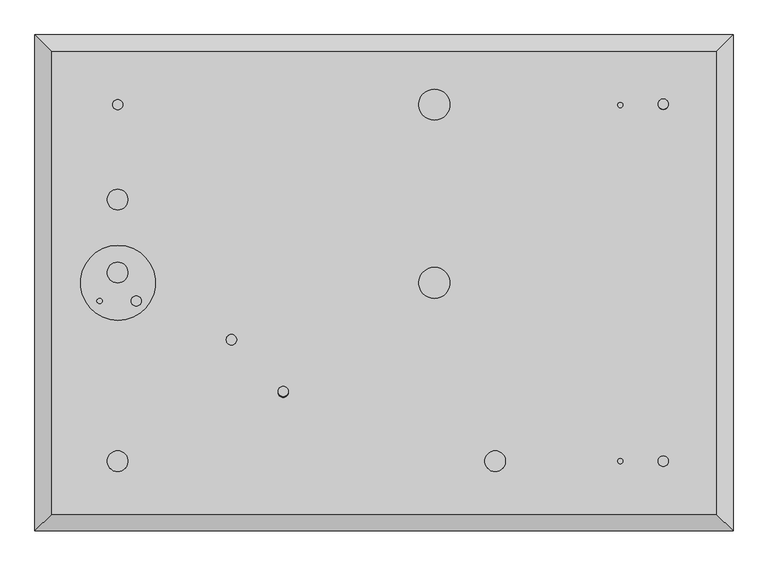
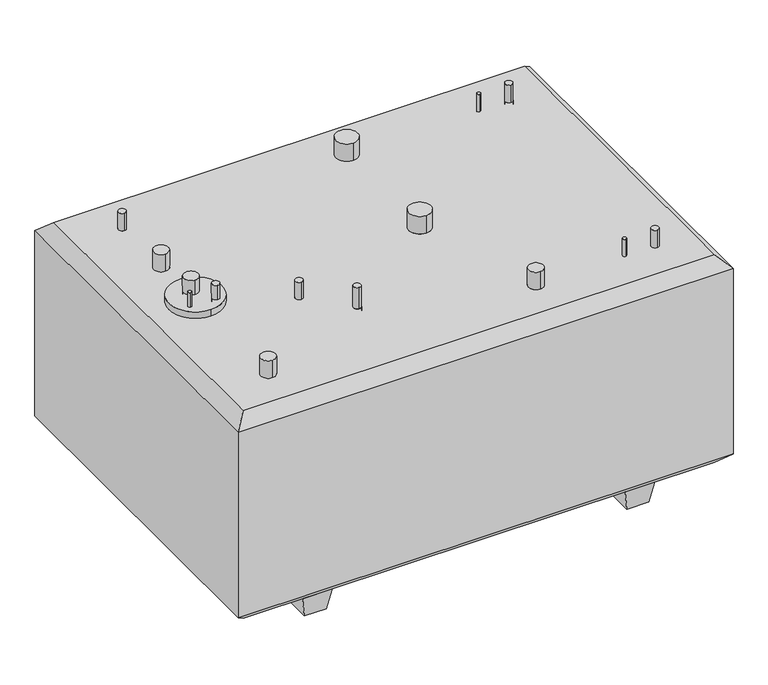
"""IFC4 building model written with IfcOpenShell, lengths in millimetres: proxy geometry, Convault Tank Family 88153084 : Convault Tank Family 88153084."""

from ifc_helpers import new_model, si_unit, point, frame, frame_2d, origin, place, context, project, spatial, polyline, circle_curve, trimmed, segment, composite_curve, outline, extrude, faceted_brep, source, transform, mapped, element, save
from ifc_brep_helpers import plane_surface, cylinder_surface, revolved_surface, advanced_brep


def generic_models_5e624025(model_context):
    return source(origin(), model_context, "Body", "SolidModel", [
        extrude(outline(composite_curve([segment(trimmed(circle_curve(frame_2d((-1306.5125, 0.0)), 184.15), [point((-1306.5125, 184.15))], [point((-1306.5125, -184.15))], False, "CARTESIAN"), True, "CONTINUOUS"), segment(trimmed(circle_curve(frame_2d((-1306.5125, 0.0)), 184.15), [point((-1306.5125, -184.15))], [point((-1306.5125, 184.15))], False, "CARTESIAN"), True, "CONTINUOUS")], self_intersect=False)), frame((0.0, 0.0, 1498.6), z_axis=(0.0, 0.0, 1.0), x_axis=(1.0, 0.0, 0.0)), (0.0, 0.0, 1.0), 224.7090569),
        advanced_brep(
        [(-495.3, -558.8, 1828.8), (-495.3, -508.0, 1828.8), (-520.6170956, -535.450529, 1498.6), (-495.3, -508.0, 1498.6), (-469.9829044, -535.450529, 1498.6), (-495.3, -512.1010581, 1498.6), (-495.3, -558.8, 1676.4), (-469.9829044, -535.450529, 1676.4), (-520.6170956, -535.450529, 1676.4), (-495.3, -512.1010581, 1676.4)],
        [
            (0, 1, circle_curve(frame((-495.3, -533.4, 1828.8), z_axis=(0.0, 0.0, 1.0), x_axis=(0.0, 1.0, 0.0)), 25.4)),
            (1, 0, circle_curve(frame((-495.3, -533.4, 1828.8), z_axis=(0.0, 0.0, 1.0), x_axis=(0.0, 1.0, 0.0)), 25.4)),
            (2, 3, circle_curve(frame((-495.3, -533.4, 1498.6), z_axis=(0.0, 0.0, -1.0), x_axis=(0.0, 1.0, 0.0)), 25.4)),
            (3, 4, circle_curve(frame((-495.3, -533.4, 1498.6), z_axis=(0.0, 0.0, -1.0), x_axis=(0.0, 1.0, 0.0)), 25.4)),
            (4, 5, circle_curve(frame((-495.3, -537.5010581, 1498.6), z_axis=(0.0, 0.0, 1.0), x_axis=(0.0, -1.0, 0.0)), 25.4)),
            (5, 2, circle_curve(frame((-495.3, -537.5010581, 1498.6), z_axis=(0.0, 0.0, 1.0), x_axis=(0.0, -1.0, 0.0)), 25.4)),
            (0, 6),
            (6, 7, circle_curve(frame((-495.3, -533.4, 1676.4), z_axis=(0.0, 0.0, 1.0), x_axis=(0.0, 1.0, 0.0)), 25.4)),
            (7, 4),
            (3, 1),
            (2, 8),
            (8, 6, circle_curve(frame((-495.3, -533.4, 1676.4), z_axis=(0.0, 0.0, 1.0), x_axis=(0.0, 1.0, 0.0)), 25.4)),
            (9, 7, circle_curve(frame((-495.3, -537.5010581, 1676.4), z_axis=(0.0, 0.0, -1.0), x_axis=(0.0, -1.0, 0.0)), 25.4)),
            (8, 9, circle_curve(frame((-495.3, -537.5010581, 1676.4), z_axis=(0.0, 0.0, -1.0), x_axis=(0.0, -1.0, 0.0)), 25.4)),
            (5, 9),
        ],
        [
            plane_surface(frame((-495.3, -508.0, 1828.8), z_axis=(0.0, 0.0, 1.0), x_axis=(-1.0, 0.0, 0.0))),
            plane_surface(frame((-495.3, -508.0, 1498.6), z_axis=(0.0, 0.0, -1.0), x_axis=(1.0, 0.0, 0.0))),
            cylinder_surface(frame((-495.3, -533.4, 1498.6), z_axis=(0.0, 0.0, 1.0), x_axis=(0.0, 1.0, 0.0)), 25.4),
            plane_surface(frame((-1308.1, 850.9, 1676.4), z_axis=(0.0, 0.0, -1.0), x_axis=(1.0, 0.0, 0.0))),
            revolved_surface(polyline([(-495.3, -562.9010581, 1676.4), (-495.3, -562.9010581, 1498.6)]), (-495.3, -537.5010581, 1498.6), (0.0, 0.0, 1.0)),
        ],
        [
            (0, [[1, 2]]),
            (1, [[3, 4, 5, 6]]),
            (2, [[-1, 7, 8, 9, -4, 10]]),
            (2, [[-2, -10, -3, 11, 12, -7]]),
            (3, [[13, -8, -12, 14]]),
            (4, [[15, -14, -11, -6]]),
            (4, [[-15, -5, -9, -13]]),
        ],
    ),
        advanced_brep(
        [(-1308.1, 901.7, 1803.4), (-1308.1, 850.9, 1803.4), (-1308.1, 901.7, 1676.4), (-1308.1, 850.9, 1676.4)],
        [
            (0, 1, circle_curve(frame((-1308.1, 876.3, 1803.4), z_axis=(0.0, 0.0, 1.0), x_axis=(0.0, -1.0, 0.0)), 25.4)),
            (1, 0, circle_curve(frame((-1308.1, 876.3, 1803.4), z_axis=(0.0, 0.0, 1.0), x_axis=(0.0, -1.0, 0.0)), 25.4)),
            (0, 2),
            (2, 3, circle_curve(frame((-1308.1, 876.3, 1676.4), z_axis=(0.0, 0.0, 1.0), x_axis=(0.0, -1.0, 0.0)), 25.4)),
            (3, 1),
            (3, 2, circle_curve(frame((-1308.1, 876.3, 1676.4), z_axis=(0.0, 0.0, 1.0), x_axis=(0.0, -1.0, 0.0)), 25.4)),
        ],
        [
            plane_surface(frame((-1308.1, 850.9, 1803.4), z_axis=(0.0, 0.0, 1.0), x_axis=(1.0, 0.0, 0.0))),
            cylinder_surface(frame((-1308.1, 876.3, 1498.6), z_axis=(0.0, 0.0, 1.0), x_axis=(0.0, -1.0, 0.0)), 25.4),
            plane_surface(frame((-1308.1, 850.9, 1676.4), z_axis=(0.0, 0.0, -1.0), x_axis=(1.0, 0.0, 0.0))),
        ],
        [
            (0, [[1, 2]]),
            (1, [[-1, 3, 4, 5]]),
            (1, [[-2, -5, 6, -3]]),
            (2, [[-4, -6]]),
        ],
    ),
        advanced_brep(
        [(-1308.1, 460.375, 1803.4), (-1308.1, 358.775, 1803.4), (-1308.1, 460.375, 1676.4), (-1308.1, 358.775, 1676.4)],
        [
            (0, 1, circle_curve(frame((-1308.1, 409.575, 1803.4), z_axis=(0.0, 0.0, 1.0), x_axis=(0.0, -1.0, 0.0)), 50.8)),
            (1, 0, circle_curve(frame((-1308.1, 409.575, 1803.4), z_axis=(0.0, 0.0, 1.0), x_axis=(0.0, -1.0, 0.0)), 50.8)),
            (0, 2),
            (2, 3, circle_curve(frame((-1308.1, 409.575, 1676.4), z_axis=(0.0, 0.0, 1.0), x_axis=(0.0, -1.0, 0.0)), 50.8)),
            (3, 1),
            (3, 2, circle_curve(frame((-1308.1, 409.575, 1676.4), z_axis=(0.0, 0.0, 1.0), x_axis=(0.0, -1.0, 0.0)), 50.8)),
        ],
        [
            plane_surface(frame((-1308.1, 850.9, 1803.4), z_axis=(0.0, 0.0, 1.0), x_axis=(1.0, 0.0, 0.0))),
            cylinder_surface(frame((-1308.1, 409.575, 1498.6), z_axis=(0.0, 0.0, 1.0), x_axis=(0.0, -1.0, 0.0)), 50.8),
            plane_surface(frame((-1308.1, 850.9, 1676.4), z_axis=(0.0, 0.0, -1.0), x_axis=(1.0, 0.0, 0.0))),
        ],
        [
            (0, [[1, 2]]),
            (1, [[-1, 3, 4, 5]]),
            (1, [[-2, -5, 6, -3]]),
            (2, [[-4, -6]]),
        ],
    ),
        advanced_brep(
        [(-1308.1, -825.5, 1803.4), (-1308.1, -927.1, 1803.4), (-1308.1, -825.5, 1676.4), (-1308.1, -927.1, 1676.4)],
        [
            (0, 1, circle_curve(frame((-1308.1, -876.3, 1803.4), z_axis=(0.0, 0.0, 1.0), x_axis=(0.0, -1.0, 0.0)), 50.8)),
            (1, 0, circle_curve(frame((-1308.1, -876.3, 1803.4), z_axis=(0.0, 0.0, 1.0), x_axis=(0.0, -1.0, 0.0)), 50.8)),
            (0, 2),
            (2, 3, circle_curve(frame((-1308.1, -876.3, 1676.4), z_axis=(0.0, 0.0, 1.0), x_axis=(0.0, -1.0, 0.0)), 50.8)),
            (3, 1),
            (3, 2, circle_curve(frame((-1308.1, -876.3, 1676.4), z_axis=(0.0, 0.0, 1.0), x_axis=(0.0, -1.0, 0.0)), 50.8)),
        ],
        [
            plane_surface(frame((-1308.1, 850.9, 1803.4), z_axis=(0.0, 0.0, 1.0), x_axis=(1.0, 0.0, 0.0))),
            cylinder_surface(frame((-1308.1, -876.3, 1498.6), z_axis=(0.0, 0.0, 1.0), x_axis=(0.0, -1.0, 0.0)), 50.8),
            plane_surface(frame((-1308.1, 850.9, 1676.4), z_axis=(0.0, 0.0, -1.0), x_axis=(1.0, 0.0, 0.0))),
        ],
        [
            (0, [[1, 2]]),
            (1, [[-1, 3, 4, 5]]),
            (1, [[-2, -5, 6, -3]]),
            (2, [[-4, -6]]),
        ],
    ),
        advanced_brep(
        [(-749.3, -254.0, 1803.4), (-749.3, -304.8, 1803.4), (-749.3, -254.0, 1676.4), (-749.3, -304.8, 1676.4)],
        [
            (0, 1, circle_curve(frame((-749.3, -279.4, 1803.4), z_axis=(0.0, 0.0, 1.0), x_axis=(0.0, -1.0, 0.0)), 25.4)),
            (1, 0, circle_curve(frame((-749.3, -279.4, 1803.4), z_axis=(0.0, 0.0, 1.0), x_axis=(0.0, -1.0, 0.0)), 25.4)),
            (0, 2),
            (2, 3, circle_curve(frame((-749.3, -279.4, 1676.4), z_axis=(0.0, 0.0, 1.0), x_axis=(0.0, -1.0, 0.0)), 25.4)),
            (3, 1),
            (3, 2, circle_curve(frame((-749.3, -279.4, 1676.4), z_axis=(0.0, 0.0, 1.0), x_axis=(0.0, -1.0, 0.0)), 25.4)),
        ],
        [
            plane_surface(frame((-1308.1, 850.9, 1803.4), z_axis=(0.0, 0.0, 1.0), x_axis=(1.0, 0.0, 0.0))),
            cylinder_surface(frame((-749.3, -279.4, 1498.6), z_axis=(0.0, 0.0, 1.0), x_axis=(0.0, -1.0, 0.0)), 25.4),
            plane_surface(frame((-1308.1, 850.9, 1676.4), z_axis=(0.0, 0.0, -1.0), x_axis=(1.0, 0.0, 0.0))),
        ],
        [
            (0, [[1, 2]]),
            (1, [[-1, 3, 4, 5]]),
            (1, [[-2, -5, 6, -3]]),
            (2, [[-4, -6]]),
        ],
    ),
        advanced_brep(
        [(247.65, 76.2, 1803.4), (247.65, -76.2, 1803.4), (247.65, 76.2, 1676.4), (247.65, -76.2, 1676.4)],
        [
            (0, 1, circle_curve(frame((247.65, 0.0, 1803.4), z_axis=(0.0, 0.0, 1.0), x_axis=(0.0, -1.0, 0.0)), 76.2)),
            (1, 0, circle_curve(frame((247.65, 0.0, 1803.4), z_axis=(0.0, 0.0, 1.0), x_axis=(0.0, -1.0, 0.0)), 76.2)),
            (0, 2),
            (2, 3, circle_curve(frame((247.65, 0.0, 1676.4), z_axis=(0.0, 0.0, 1.0), x_axis=(0.0, -1.0, 0.0)), 76.2)),
            (3, 1),
            (3, 2, circle_curve(frame((247.65, 0.0, 1676.4), z_axis=(0.0, 0.0, 1.0), x_axis=(0.0, -1.0, 0.0)), 76.2)),
        ],
        [
            plane_surface(frame((-1308.1, 850.9, 1803.4), z_axis=(0.0, 0.0, 1.0), x_axis=(1.0, 0.0, 0.0))),
            cylinder_surface(frame((247.65, 0.0, 1498.6), z_axis=(0.0, 0.0, 1.0), x_axis=(0.0, -1.0, 0.0)), 76.2),
            plane_surface(frame((-1308.1, 850.9, 1676.4), z_axis=(0.0, 0.0, -1.0), x_axis=(1.0, 0.0, 0.0))),
        ],
        [
            (0, [[1, 2]]),
            (1, [[-1, 3, 4, 5]]),
            (1, [[-2, -5, 6, -3]]),
            (2, [[-4, -6]]),
        ],
    ),
        advanced_brep(
        [(247.65, 952.5, 1803.4), (247.65, 800.1, 1803.4), (247.65, 952.5, 1498.6), (247.65, 800.1, 1498.6)],
        [
            (0, 1, circle_curve(frame((247.65, 876.3, 1803.4), z_axis=(0.0, 0.0, 1.0), x_axis=(0.0, -1.0, 0.0)), 76.2)),
            (1, 0, circle_curve(frame((247.65, 876.3, 1803.4), z_axis=(0.0, 0.0, 1.0), x_axis=(0.0, -1.0, 0.0)), 76.2)),
            (2, 3, circle_curve(frame((247.65, 876.3, 1498.6), z_axis=(0.0, 0.0, -1.0), x_axis=(0.0, -1.0, 0.0)), 76.2)),
            (3, 2, circle_curve(frame((247.65, 876.3, 1498.6), z_axis=(0.0, 0.0, -1.0), x_axis=(0.0, -1.0, 0.0)), 76.2)),
            (0, 2),
            (3, 1),
        ],
        [
            plane_surface(frame((-1308.1, 850.9, 1803.4), z_axis=(0.0, 0.0, 1.0), x_axis=(1.0, 0.0, 0.0))),
            plane_surface(frame((-1308.1, 850.9, 1498.6), z_axis=(0.0, 0.0, -1.0), x_axis=(-1.0, 0.0, 0.0))),
            cylinder_surface(frame((247.65, 876.3, 1498.6), z_axis=(0.0, 0.0, 1.0), x_axis=(0.0, -1.0, 0.0)), 76.2),
        ],
        [
            (0, [[1, 2]]),
            (1, [[3, 4]]),
            (2, [[-1, 5, -4, 6]]),
            (2, [[-2, -6, -3, -5]]),
        ],
    ),
        advanced_brep(
        [(1371.6, -850.9, 1803.4), (1371.6, -901.7, 1803.4), (1371.6, -850.9, 1676.4), (1371.6, -901.7, 1676.4)],
        [
            (0, 1, circle_curve(frame((1371.6, -876.3, 1803.4), z_axis=(0.0, 0.0, 1.0), x_axis=(0.0, -1.0, 0.0)), 25.4)),
            (1, 0, circle_curve(frame((1371.6, -876.3, 1803.4), z_axis=(0.0, 0.0, 1.0), x_axis=(0.0, -1.0, 0.0)), 25.4)),
            (0, 2),
            (2, 3, circle_curve(frame((1371.6, -876.3, 1676.4), z_axis=(0.0, 0.0, 1.0), x_axis=(0.0, -1.0, 0.0)), 25.4)),
            (3, 1),
            (3, 2, circle_curve(frame((1371.6, -876.3, 1676.4), z_axis=(0.0, 0.0, 1.0), x_axis=(0.0, -1.0, 0.0)), 25.4)),
        ],
        [
            plane_surface(frame((-1308.1, 850.9, 1803.4), z_axis=(0.0, 0.0, 1.0), x_axis=(1.0, 0.0, 0.0))),
            cylinder_surface(frame((1371.6, -876.3, 1498.6), z_axis=(0.0, 0.0, 1.0), x_axis=(0.0, -1.0, 0.0)), 25.4),
            plane_surface(frame((-1308.1, 850.9, 1676.4), z_axis=(0.0, 0.0, -1.0), x_axis=(1.0, 0.0, 0.0))),
        ],
        [
            (0, [[1, 2]]),
            (1, [[-1, 3, 4, 5]]),
            (1, [[-2, -5, 6, -3]]),
            (2, [[-4, -6]]),
        ],
    ),
        advanced_brep(
        [(546.1, -825.5, 1803.4), (546.1, -927.1, 1803.4), (546.1, -825.5, 1676.4), (546.1, -927.1, 1676.4)],
        [
            (0, 1, circle_curve(frame((546.1, -876.3, 1803.4), z_axis=(0.0, 0.0, 1.0), x_axis=(0.0, -1.0, 0.0)), 50.8)),
            (1, 0, circle_curve(frame((546.1, -876.3, 1803.4), z_axis=(0.0, 0.0, 1.0), x_axis=(0.0, -1.0, 0.0)), 50.8)),
            (0, 2),
            (2, 3, circle_curve(frame((546.1, -876.3, 1676.4), z_axis=(0.0, 0.0, 1.0), x_axis=(0.0, -1.0, 0.0)), 50.8)),
            (3, 1),
            (3, 2, circle_curve(frame((546.1, -876.3, 1676.4), z_axis=(0.0, 0.0, 1.0), x_axis=(0.0, -1.0, 0.0)), 50.8)),
        ],
        [
            plane_surface(frame((-1308.1, 850.9, 1803.4), z_axis=(0.0, 0.0, 1.0), x_axis=(1.0, 0.0, 0.0))),
            cylinder_surface(frame((546.1, -876.3, 1498.6), z_axis=(0.0, 0.0, 1.0), x_axis=(0.0, -1.0, 0.0)), 50.8),
            plane_surface(frame((-1308.1, 850.9, 1676.4), z_axis=(0.0, 0.0, -1.0), x_axis=(1.0, 0.0, 0.0))),
        ],
        [
            (0, [[1, 2]]),
            (1, [[-1, 3, 4, 5]]),
            (1, [[-2, -5, 6, -3]]),
            (2, [[-4, -6]]),
        ],
    ),
        advanced_brep(
        [(1371.6, 904.3209307, 1803.4), (1371.6, 853.5209307, 1803.4), (1371.6, 904.3209307, 1498.6), (1396.9976351, 878.574328, 1498.6), (1371.6, 903.6277254, 1498.6), (1346.2023649, 878.574328, 1498.6), (1371.6, 903.6277254, 1676.4), (1396.9976351, 878.574328, 1676.4), (1371.6, 853.5209307, 1676.4), (1346.2023649, 878.574328, 1676.4)],
        [
            (0, 1, circle_curve(frame((1371.6, 878.9209307, 1803.4), z_axis=(0.0, 0.0, 1.0), x_axis=(0.0, -1.0, 0.0)), 25.4)),
            (1, 0, circle_curve(frame((1371.6, 878.9209307, 1803.4), z_axis=(0.0, 0.0, 1.0), x_axis=(0.0, -1.0, 0.0)), 25.4)),
            (2, 3, circle_curve(frame((1371.6, 878.9209307, 1498.6), z_axis=(0.0, 0.0, -1.0), x_axis=(0.0, -1.0, 0.0)), 25.4)),
            (3, 4, circle_curve(frame((1371.6, 878.2277254, 1498.6), z_axis=(0.0, 0.0, 1.0), x_axis=(0.0, -1.0, 0.0)), 25.4)),
            (4, 5, circle_curve(frame((1371.6, 878.2277254, 1498.6), z_axis=(0.0, 0.0, 1.0), x_axis=(0.0, -1.0, 0.0)), 25.4)),
            (5, 2, circle_curve(frame((1371.6, 878.9209307, 1498.6), z_axis=(0.0, 0.0, -1.0), x_axis=(0.0, -1.0, 0.0)), 25.4)),
            (6, 7, circle_curve(frame((1371.6, 878.2277254, 1676.4), z_axis=(0.0, 0.0, -1.0), x_axis=(0.0, -1.0, 0.0)), 25.4)),
            (7, 8, circle_curve(frame((1371.6, 878.9209307, 1676.4), z_axis=(0.0, 0.0, -1.0), x_axis=(0.0, -1.0, 0.0)), 25.4)),
            (8, 9, circle_curve(frame((1371.6, 878.9209307, 1676.4), z_axis=(0.0, 0.0, -1.0), x_axis=(0.0, -1.0, 0.0)), 25.4)),
            (9, 6, circle_curve(frame((1371.6, 878.2277254, 1676.4), z_axis=(0.0, 0.0, -1.0), x_axis=(0.0, -1.0, 0.0)), 25.4)),
            (0, 2),
            (5, 9),
            (8, 1),
            (7, 3),
            (4, 6),
        ],
        [
            plane_surface(frame((-1308.1, 850.9, 1803.4), z_axis=(0.0, 0.0, 1.0), x_axis=(1.0, 0.0, 0.0))),
            plane_surface(frame((-1308.1, 850.9, 1498.6), z_axis=(0.0, 0.0, -1.0), x_axis=(-1.0, 0.0, 0.0))),
            plane_surface(frame((-1308.1, 850.9, 1676.4), z_axis=(0.0, 0.0, -1.0), x_axis=(1.0, 0.0, 0.0))),
            cylinder_surface(frame((1371.6, 878.9209307, 1498.6), z_axis=(0.0, 0.0, 1.0), x_axis=(0.0, -1.0, 0.0)), 25.4),
            revolved_surface(polyline([(1371.6, 852.8277254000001, 1676.4), (1371.6, 852.8277254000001, 1498.6)]), (1371.6, 878.2277254, 1498.6), (0.0, 0.0, 1.0)),
        ],
        [
            (0, [[1, 2]]),
            (1, [[3, 4, 5, 6]]),
            (2, [[7, 8, 9, 10]]),
            (3, [[-1, 11, -6, 12, -9, 13]]),
            (3, [[-2, -13, -8, 14, -3, -11]]),
            (4, [[15, -10, -12, -5]]),
            (4, [[-15, -4, -14, -7]]),
        ],
    ),
        advanced_brep(
        [(1160.4625, -863.6, 1803.4), (1160.4625, -889.0, 1803.4), (1160.4625, -863.6, 1498.6), (1160.4625, -889.0, 1498.6)],
        [
            (0, 1, circle_curve(frame((1160.4625, -876.3, 1803.4), z_axis=(0.0, 0.0, 1.0), x_axis=(0.0, -1.0, 0.0)), 12.7)),
            (1, 0, circle_curve(frame((1160.4625, -876.3, 1803.4), z_axis=(0.0, 0.0, 1.0), x_axis=(0.0, -1.0, 0.0)), 12.7)),
            (2, 3, circle_curve(frame((1160.4625, -876.3, 1498.6), z_axis=(0.0, 0.0, -1.0), x_axis=(0.0, -1.0, 0.0)), 12.7)),
            (3, 2, circle_curve(frame((1160.4625, -876.3, 1498.6), z_axis=(0.0, 0.0, -1.0), x_axis=(0.0, -1.0, 0.0)), 12.7)),
            (0, 2),
            (3, 1),
        ],
        [
            plane_surface(frame((-1308.1, 850.9, 1803.4), z_axis=(0.0, 0.0, 1.0), x_axis=(1.0, 0.0, 0.0))),
            plane_surface(frame((-1308.1, 850.9, 1498.6), z_axis=(0.0, 0.0, -1.0), x_axis=(-1.0, 0.0, 0.0))),
            cylinder_surface(frame((1160.4625, -876.3, 1498.6), z_axis=(0.0, 0.0, 1.0), x_axis=(0.0, -1.0, 0.0)), 12.7),
        ],
        [
            (0, [[1, 2]]),
            (1, [[3, 4]]),
            (2, [[-1, 5, -4, 6]]),
            (2, [[-2, -6, -3, -5]]),
        ],
    ),
        advanced_brep(
        [(1160.4625, 886.7646934, 1803.4), (1160.4625, 861.3646934, 1803.4), (1160.4625, 886.7646934, 1498.6), (1160.4625, 861.3646934, 1498.6)],
        [
            (0, 1, circle_curve(frame((1160.4625, 874.0646934, 1803.4), z_axis=(0.0, 0.0, 1.0), x_axis=(0.0, -1.0, 0.0)), 12.7)),
            (1, 0, circle_curve(frame((1160.4625, 874.0646934, 1803.4), z_axis=(0.0, 0.0, 1.0), x_axis=(0.0, -1.0, 0.0)), 12.7)),
            (2, 3, circle_curve(frame((1160.4625, 874.0646934, 1498.6), z_axis=(0.0, 0.0, -1.0), x_axis=(0.0, -1.0, 0.0)), 12.7)),
            (3, 2, circle_curve(frame((1160.4625, 874.0646934, 1498.6), z_axis=(0.0, 0.0, -1.0), x_axis=(0.0, -1.0, 0.0)), 12.7)),
            (0, 2),
            (3, 1),
        ],
        [
            plane_surface(frame((-1308.1, 850.9, 1803.4), z_axis=(0.0, 0.0, 1.0), x_axis=(1.0, 0.0, 0.0))),
            plane_surface(frame((-1308.1, 850.9, 1498.6), z_axis=(0.0, 0.0, -1.0), x_axis=(-1.0, 0.0, 0.0))),
            cylinder_surface(frame((1160.4625, 874.0646934, 1498.6), z_axis=(0.0, 0.0, 1.0), x_axis=(0.0, -1.0, 0.0)), 12.7),
        ],
        [
            (0, [[1, 2]]),
            (1, [[3, 4]]),
            (2, [[-1, 5, -4, 6]]),
            (2, [[-2, -6, -3, -5]]),
        ],
    ),
        extrude(outline(polyline([(1562.1, 1066.8), (1562.1, -1066.8), (-1562.1, -1066.8), (-1562.1, 1066.8), (1562.1, 1066.8)]), holes=[composite_curve([segment(trimmed(circle_curve(frame_2d((-1308.1, 876.3)), 25.4), [point((-1308.1, 901.7))], [point((-1308.1, 850.9))], True, "CARTESIAN"), True, "CONTINUOUS"), segment(trimmed(circle_curve(frame_2d((-1308.1, 876.3)), 25.4), [point((-1308.1, 850.9))], [point((-1308.1, 901.7))], True, "CARTESIAN"), True, "CONTINUOUS")], self_intersect=False), composite_curve([segment(trimmed(circle_curve(frame_2d((-1308.1, 409.575)), 50.8), [point((-1308.1, 460.375))], [point((-1308.1, 358.775))], True, "CARTESIAN"), True, "CONTINUOUS"), segment(trimmed(circle_curve(frame_2d((-1308.1, 409.575)), 50.8), [point((-1308.1, 358.775))], [point((-1308.1, 460.375))], True, "CARTESIAN"), True, "CONTINUOUS")], self_intersect=False), composite_curve([segment(trimmed(circle_curve(frame_2d((-1308.1, -876.3)), 50.8), [point((-1308.1, -825.5))], [point((-1308.1, -927.1))], True, "CARTESIAN"), True, "CONTINUOUS"), segment(trimmed(circle_curve(frame_2d((-1308.1, -876.3)), 50.8), [point((-1308.1, -927.1))], [point((-1308.1, -825.5))], True, "CARTESIAN"), True, "CONTINUOUS")], self_intersect=False), composite_curve([segment(trimmed(circle_curve(frame_2d((-749.3, -279.4)), 25.4), [point((-749.3, -254.0))], [point((-749.3, -304.8))], True, "CARTESIAN"), True, "CONTINUOUS"), segment(trimmed(circle_curve(frame_2d((-749.3, -279.4)), 25.4), [point((-749.3, -304.8))], [point((-749.3, -254.0))], True, "CARTESIAN"), True, "CONTINUOUS")], self_intersect=False), composite_curve([segment(trimmed(circle_curve(frame_2d((247.65, 0.0)), 76.2), [point((247.65, 76.2))], [point((247.65, -76.2))], True, "CARTESIAN"), True, "CONTINUOUS"), segment(trimmed(circle_curve(frame_2d((247.65, 0.0)), 76.2), [point((247.65, -76.2))], [point((247.65, 76.2))], True, "CARTESIAN"), True, "CONTINUOUS")], self_intersect=False), composite_curve([segment(trimmed(circle_curve(frame_2d((1371.6, -876.3)), 25.4), [point((1371.6, -850.9))], [point((1371.6, -901.7))], True, "CARTESIAN"), True, "CONTINUOUS"), segment(trimmed(circle_curve(frame_2d((1371.6, -876.3)), 25.4), [point((1371.6, -901.7))], [point((1371.6, -850.9))], True, "CARTESIAN"), True, "CONTINUOUS")], self_intersect=False), composite_curve([segment(trimmed(circle_curve(frame_2d((546.1, -876.3)), 50.8), [point((546.1, -825.5))], [point((546.1, -927.1))], True, "CARTESIAN"), True, "CONTINUOUS"), segment(trimmed(circle_curve(frame_2d((546.1, -876.3)), 50.8), [point((546.1, -927.1))], [point((546.1, -825.5))], True, "CARTESIAN"), True, "CONTINUOUS")], self_intersect=False), composite_curve([segment(trimmed(circle_curve(frame_2d((-495.3, -537.5010581)), 25.4), [point((-495.3, -512.1010581))], [point((-495.3, -562.9010581))], True, "CARTESIAN"), True, "CONTINUOUS"), segment(trimmed(circle_curve(frame_2d((-495.3, -537.5010581)), 25.4), [point((-495.3, -562.9010581))], [point((-495.3, -512.1010581))], True, "CARTESIAN"), True, "CONTINUOUS")], self_intersect=False), composite_curve([segment(trimmed(circle_curve(frame_2d((1371.6, 878.2277254)), 25.4), [point((1371.6, 903.6277254))], [point((1371.6, 852.8277254))], True, "CARTESIAN"), True, "CONTINUOUS"), segment(trimmed(circle_curve(frame_2d((1371.6, 878.2277254)), 25.4), [point((1371.6, 852.8277254))], [point((1371.6, 903.6277254))], True, "CARTESIAN"), True, "CONTINUOUS")], self_intersect=False), composite_curve([segment(trimmed(circle_curve(frame_2d((-1308.1, 0.0)), 6.35), [point((-1308.1, 6.35))], [point((-1308.1, -6.35))], True, "CARTESIAN"), True, "CONTINUOUS"), segment(trimmed(circle_curve(frame_2d((-1308.1, 0.0)), 6.35), [point((-1308.1, -6.35))], [point((-1308.1, 6.35))], True, "CARTESIAN"), True, "CONTINUOUS")], self_intersect=False)]), frame((0.0, 0.0, 1498.6), z_axis=(0.0, 0.0, 1.0), x_axis=(1.0, 0.0, 0.0)), (0.0, 0.0, 1.0), 25.4),
        extrude(outline(composite_curve([segment(trimmed(circle_curve(frame_2d((-1308.1, 50.8)), 50.8), [point((-1308.1, 101.6))], [point((-1308.1, 0.0))], False, "CARTESIAN"), True, "CONTINUOUS"), segment(trimmed(circle_curve(frame_2d((-1308.1, 50.8)), 50.8), [point((-1308.1, 0.0))], [point((-1308.1, 101.6))], False, "CARTESIAN"), True, "CONTINUOUS")], self_intersect=False)), frame((0.0, 0.0, 1498.6), z_axis=(0.0, 0.0, 1.0), x_axis=(1.0, 0.0, 0.0)), (0.0, 0.0, 1.0), 330.2),
        extrude(outline(composite_curve([segment(trimmed(circle_curve(frame_2d((-1217.1925835, -88.9)), 25.4), [point((-1217.1925835, -63.5))], [point((-1217.1925835, -114.3))], False, "CARTESIAN"), True, "CONTINUOUS"), segment(trimmed(circle_curve(frame_2d((-1217.1925835, -88.9)), 25.4), [point((-1217.1925835, -114.3))], [point((-1217.1925835, -63.5))], False, "CARTESIAN"), True, "CONTINUOUS")], self_intersect=False)), frame((0.0, 0.0, 1498.6), z_axis=(0.0, 0.0, 1.0), x_axis=(1.0, 0.0, 0.0)), (0.0, 0.0, 1.0), 330.2),
        extrude(outline(composite_curve([segment(trimmed(circle_curve(frame_2d((-1397.0, -88.9)), 12.7), [point((-1397.0, -76.2))], [point((-1397.0, -101.6))], False, "CARTESIAN"), True, "CONTINUOUS"), segment(trimmed(circle_curve(frame_2d((-1397.0, -88.9)), 12.7), [point((-1397.0, -101.6))], [point((-1397.0, -76.2))], False, "CARTESIAN"), True, "CONTINUOUS")], self_intersect=False)), frame((0.0, 0.0, 1498.6), z_axis=(0.0, 0.0, 1.0), x_axis=(1.0, 0.0, 0.0)), (0.0, 0.0, 1.0), 330.2),
        extrude(outline(polyline([(1536.7, -1066.8), (1536.7, 1066.8), (1562.1, 1066.8), (1562.1, -1066.8), (1536.7, -1066.8)])), frame((0.0, 0.0, 304.8), z_axis=(0.0, 0.0, 1.0), x_axis=(1.0, 0.0, 0.0)), (0.0, 0.0, 1.0), 1219.2),
        extrude(outline(polyline([(-1562.1, -1066.8), (-1562.1, 1066.8), (-1536.7, 1066.8), (-1536.7, -1066.8), (-1562.1, -1066.8)])), frame((0.0, 0.0, 304.8), z_axis=(0.0, 0.0, 1.0), x_axis=(1.0, 0.0, 0.0)), (0.0, 0.0, 1.0), 1219.2),
        extrude(outline(polyline([(-1562.1, 1066.8), (1562.1, 1066.8), (1562.1, 1041.4), (-1562.1, 1041.4), (-1562.1, 1066.8)])), frame((0.0, 0.0, 304.8), z_axis=(0.0, 0.0, 1.0), x_axis=(1.0, 0.0, 0.0)), (0.0, 0.0, 1.0), 1219.2),
        extrude(outline(polyline([(1562.1, 1066.8), (1562.1, -1066.8), (-1562.1, -1066.8), (-1562.1, 1066.8), (1562.1, 1066.8)])), frame((0.0, 0.0, 304.8), z_axis=(0.0, 0.0, 1.0), x_axis=(1.0, 0.0, 0.0)), (0.0, 0.0, 1.0), 25.4),
        extrude(outline(polyline([(-1562.1, -1041.4), (1562.1, -1041.4), (1562.1, -1066.8), (-1562.1, -1066.8), (-1562.1, -1041.4)])), frame((0.0, 0.0, 304.8), z_axis=(0.0, 0.0, 1.0), x_axis=(1.0, 0.0, 0.0)), (0.0, 0.0, 1.0), 1219.2),
        faceted_brep([(1193.8, 1109.7777681, 0.0), (1193.8, -1109.7777681, 0.0), (1041.551354, -1109.7777681, 0.0), (1041.551354, 1109.7777681, 0.0), (1014.6791221, -1136.65, 152.4), (1014.6791221, 1136.65, 152.4), (1220.8235858, -1136.65, 152.4), (1220.8235858, 1136.65, 152.4)], [[[0, 1, 2, 3]], [[3, 2, 4, 5]], [[5, 4, 6, 7]], [[1, 0, 7, 6]], [[2, 1, 6, 4]], [[0, 3, 5, 7]]]),
        faceted_brep([(-1193.648646, -1109.7777681, 0.0), (-1041.248646, -1109.7777681, 0.0), (-1014.3764142, -1136.65, 152.4), (-1220.5208779, -1136.65, 152.4), (-1041.248646, 1109.7777681, 0.0), (-1193.648646, 1109.7777681, 0.0), (-1220.5208779, 1136.65, 152.4), (-1014.3764142, 1136.65, 152.4)], [[[0, 1, 2, 3]], [[4, 5, 6, 7]], [[4, 1, 0, 5]], [[5, 0, 3, 6]], [[6, 3, 2, 7]], [[1, 4, 7, 2]]]),
        advanced_brep(
        [(-1631.95, 1136.65, 1676.4), (-1631.95, -1136.65, 1676.4), (1631.95, -1136.65, 1676.4), (1631.95, 1136.65, 1676.4), (-1308.1, 850.9, 1676.4), (-1308.1, 901.7, 1676.4), (-1308.1, 358.775, 1676.4), (-1308.1, 460.375, 1676.4), (-1308.1, -927.1, 1676.4), (-1308.1, -825.5, 1676.4), (-749.3, -304.8, 1676.4), (-749.3, -254.0, 1676.4), (247.65, -76.2, 1676.4), (247.65, 76.2, 1676.4), (1371.6, -901.7, 1676.4), (1371.6, -850.9, 1676.4), (546.1, -927.1, 1676.4), (546.1, -825.5, 1676.4), (-495.3, -562.9010581, 1676.4), (-495.3, -512.1010581, 1676.4), (1371.6, 852.8277254, 1676.4), (1371.6, 903.6277254, 1676.4), (-1308.1, -6.35, 1676.4), (-1308.1, 6.35, 1676.4), (-1631.95, -1136.65, 152.4), (-1631.95, 1136.65, 152.4), (1631.95, 1136.65, 152.4), (1631.95, -1136.65, 152.4), (1714.5, 1219.2, 1593.85), (1714.5, 1219.2, 234.95), (-1714.5, 1219.2, 234.95), (-1714.5, 1219.2, 1593.85), (-1714.5, -1219.2, 234.95), (-1714.5, -1219.2, 1593.85), (1714.5, -1219.2, 234.95), (1714.5, -1219.2, 1593.85), (-1562.1, -1066.8, 1524.0), (-1562.1, -1066.8, 304.8), (-1562.1, 1066.8, 304.8), (-1562.1, 1066.8, 1524.0), (1562.1, -1066.8, 1524.0), (1562.1, 1066.8, 1524.0), (1562.1, 1066.8, 304.8), (1562.1, -1066.8, 304.8), (-1308.1, 901.7, 1524.0), (-1308.1, 850.9, 1524.0), (-1308.1, 460.375, 1524.0), (-1308.1, 358.775, 1524.0), (-1308.1, -825.5, 1524.0), (-1308.1, -927.1, 1524.0), (-749.3, -254.0, 1524.0), (-749.3, -304.8, 1524.0), (247.65, 76.2, 1524.0), (247.65, -76.2, 1524.0), (1371.6, -850.9, 1524.0), (1371.6, -901.7, 1524.0), (546.1, -825.5, 1524.0), (546.1, -927.1, 1524.0), (-495.3, -512.1010581, 1524.0), (-495.3, -562.9010581, 1524.0), (1371.6, 903.6277254, 1524.0), (1371.6, 852.8277254, 1524.0), (-1308.1, 6.35, 1524.0), (-1308.1, -6.35, 1524.0)],
        [
            (0, 1),
            (1, 2),
            (2, 3),
            (3, 0),
            (4, 5, circle_curve(frame((-1308.1, 876.3, 1676.4), z_axis=(0.0, 0.0, -1.0), x_axis=(0.0, -1.0, 0.0)), 25.4)),
            (5, 4, circle_curve(frame((-1308.1, 876.3, 1676.4), z_axis=(0.0, 0.0, -1.0), x_axis=(0.0, -1.0, 0.0)), 25.4)),
            (6, 7, circle_curve(frame((-1308.1, 409.575, 1676.4), z_axis=(0.0, 0.0, -1.0), x_axis=(0.0, -1.0, 0.0)), 50.8)),
            (7, 6, circle_curve(frame((-1308.1, 409.575, 1676.4), z_axis=(0.0, 0.0, -1.0), x_axis=(0.0, -1.0, 0.0)), 50.8)),
            (8, 9, circle_curve(frame((-1308.1, -876.3, 1676.4), z_axis=(0.0, 0.0, -1.0), x_axis=(0.0, -1.0, 0.0)), 50.8)),
            (9, 8, circle_curve(frame((-1308.1, -876.3, 1676.4), z_axis=(0.0, 0.0, -1.0), x_axis=(0.0, -1.0, 0.0)), 50.8)),
            (10, 11, circle_curve(frame((-749.3, -279.4, 1676.4), z_axis=(0.0, 0.0, -1.0), x_axis=(0.0, -1.0, 0.0)), 25.4)),
            (11, 10, circle_curve(frame((-749.3, -279.4, 1676.4), z_axis=(0.0, 0.0, -1.0), x_axis=(0.0, -1.0, 0.0)), 25.4)),
            (12, 13, circle_curve(frame((247.65, 0.0, 1676.4), z_axis=(0.0, 0.0, -1.0), x_axis=(0.0, -1.0, 0.0)), 76.2)),
            (13, 12, circle_curve(frame((247.65, 0.0, 1676.4), z_axis=(0.0, 0.0, -1.0), x_axis=(0.0, -1.0, 0.0)), 76.2)),
            (14, 15, circle_curve(frame((1371.6, -876.3, 1676.4), z_axis=(0.0, 0.0, -1.0), x_axis=(0.0, -1.0, 0.0)), 25.4)),
            (15, 14, circle_curve(frame((1371.6, -876.3, 1676.4), z_axis=(0.0, 0.0, -1.0), x_axis=(0.0, -1.0, 0.0)), 25.4)),
            (16, 17, circle_curve(frame((546.1, -876.3, 1676.4), z_axis=(0.0, 0.0, -1.0), x_axis=(0.0, -1.0, 0.0)), 50.8)),
            (17, 16, circle_curve(frame((546.1, -876.3, 1676.4), z_axis=(0.0, 0.0, -1.0), x_axis=(0.0, -1.0, 0.0)), 50.8)),
            (18, 19, circle_curve(frame((-495.3, -537.5010581, 1676.4), z_axis=(0.0, 0.0, -1.0), x_axis=(0.0, -1.0, 0.0)), 25.4)),
            (19, 18, circle_curve(frame((-495.3, -537.5010581, 1676.4), z_axis=(0.0, 0.0, -1.0), x_axis=(0.0, -1.0, 0.0)), 25.4)),
            (20, 21, circle_curve(frame((1371.6, 878.2277254, 1676.4), z_axis=(0.0, 0.0, -1.0), x_axis=(0.0, -1.0, 0.0)), 25.4)),
            (21, 20, circle_curve(frame((1371.6, 878.2277254, 1676.4), z_axis=(0.0, 0.0, -1.0), x_axis=(0.0, -1.0, 0.0)), 25.4)),
            (22, 23, circle_curve(frame((-1308.1, 0.0, 1676.4), z_axis=(0.0, 0.0, -1.0), x_axis=(0.0, -1.0, 0.0)), 6.35)),
            (23, 22, circle_curve(frame((-1308.1, 0.0, 1676.4), z_axis=(0.0, 0.0, -1.0), x_axis=(0.0, -1.0, 0.0)), 6.35)),
            (24, 25),
            (25, 26),
            (26, 27),
            (27, 24),
            (28, 29),
            (29, 30),
            (30, 31),
            (31, 28),
            (30, 32),
            (32, 33),
            (33, 31),
            (32, 34),
            (34, 35),
            (35, 33),
            (28, 35),
            (34, 29),
            (28, 3),
            (2, 35),
            (34, 27),
            (26, 29),
            (30, 25),
            (24, 32),
            (33, 1),
            (0, 31),
            (36, 37),
            (37, 38),
            (38, 39),
            (39, 36),
            (40, 41),
            (41, 42),
            (42, 43),
            (43, 40),
            (39, 41),
            (40, 36),
            (44, 45, circle_curve(frame((-1308.1, 876.3, 1524.0), z_axis=(0.0, 0.0, 1.0), x_axis=(0.0, -1.0, 0.0)), 25.4)),
            (45, 44, circle_curve(frame((-1308.1, 876.3, 1524.0), z_axis=(0.0, 0.0, 1.0), x_axis=(0.0, -1.0, 0.0)), 25.4)),
            (46, 47, circle_curve(frame((-1308.1, 409.575, 1524.0), z_axis=(0.0, 0.0, 1.0), x_axis=(0.0, -1.0, 0.0)), 50.8)),
            (47, 46, circle_curve(frame((-1308.1, 409.575, 1524.0), z_axis=(0.0, 0.0, 1.0), x_axis=(0.0, -1.0, 0.0)), 50.8)),
            (48, 49, circle_curve(frame((-1308.1, -876.3, 1524.0), z_axis=(0.0, 0.0, 1.0), x_axis=(0.0, -1.0, 0.0)), 50.8)),
            (49, 48, circle_curve(frame((-1308.1, -876.3, 1524.0), z_axis=(0.0, 0.0, 1.0), x_axis=(0.0, -1.0, 0.0)), 50.8)),
            (50, 51, circle_curve(frame((-749.3, -279.4, 1524.0), z_axis=(0.0, 0.0, 1.0), x_axis=(0.0, -1.0, 0.0)), 25.4)),
            (51, 50, circle_curve(frame((-749.3, -279.4, 1524.0), z_axis=(0.0, 0.0, 1.0), x_axis=(0.0, -1.0, 0.0)), 25.4)),
            (52, 53, circle_curve(frame((247.65, 0.0, 1524.0), z_axis=(0.0, 0.0, 1.0), x_axis=(0.0, -1.0, 0.0)), 76.2)),
            (53, 52, circle_curve(frame((247.65, 0.0, 1524.0), z_axis=(0.0, 0.0, 1.0), x_axis=(0.0, -1.0, 0.0)), 76.2)),
            (54, 55, circle_curve(frame((1371.6, -876.3, 1524.0), z_axis=(0.0, 0.0, 1.0), x_axis=(0.0, -1.0, 0.0)), 25.4)),
            (55, 54, circle_curve(frame((1371.6, -876.3, 1524.0), z_axis=(0.0, 0.0, 1.0), x_axis=(0.0, -1.0, 0.0)), 25.4)),
            (56, 57, circle_curve(frame((546.1, -876.3, 1524.0), z_axis=(0.0, 0.0, 1.0), x_axis=(0.0, -1.0, 0.0)), 50.8)),
            (57, 56, circle_curve(frame((546.1, -876.3, 1524.0), z_axis=(0.0, 0.0, 1.0), x_axis=(0.0, -1.0, 0.0)), 50.8)),
            (58, 59, circle_curve(frame((-495.3, -537.5010581, 1524.0), z_axis=(0.0, 0.0, 1.0), x_axis=(0.0, -1.0, 0.0)), 25.4)),
            (59, 58, circle_curve(frame((-495.3, -537.5010581, 1524.0), z_axis=(0.0, 0.0, 1.0), x_axis=(0.0, -1.0, 0.0)), 25.4)),
            (60, 61, circle_curve(frame((1371.6, 878.2277254, 1524.0), z_axis=(0.0, 0.0, 1.0), x_axis=(0.0, -1.0, 0.0)), 25.4)),
            (61, 60, circle_curve(frame((1371.6, 878.2277254, 1524.0), z_axis=(0.0, 0.0, 1.0), x_axis=(0.0, -1.0, 0.0)), 25.4)),
            (62, 63, circle_curve(frame((-1308.1, 0.0, 1524.0), z_axis=(0.0, 0.0, 1.0), x_axis=(0.0, -1.0, 0.0)), 6.35)),
            (63, 62, circle_curve(frame((-1308.1, 0.0, 1524.0), z_axis=(0.0, 0.0, 1.0), x_axis=(0.0, -1.0, 0.0)), 6.35)),
            (38, 42),
            (37, 43),
            (44, 5),
            (4, 45),
            (46, 7),
            (6, 47),
            (48, 9),
            (8, 49),
            (50, 11),
            (10, 51),
            (52, 13),
            (12, 53),
            (54, 15),
            (14, 55),
            (56, 17),
            (16, 57),
            (58, 19),
            (18, 59),
            (60, 21),
            (20, 61),
            (62, 23),
            (22, 63),
        ],
        [
            plane_surface(frame((-1714.5, 1219.2, 1676.4), z_axis=(0.0, 0.0, 1.0), x_axis=(-1.0, 0.0, 0.0))),
            plane_surface(frame((-1714.5, 1219.2, 152.4), z_axis=(0.0, 0.0, -1.0), x_axis=(1.0, 0.0, 0.0))),
            plane_surface(frame((1714.5, 1219.2, 1676.4), z_axis=(0.0, 1.0, 0.0), x_axis=(0.0, 0.0, -1.0))),
            plane_surface(frame((-1714.5, 1219.2, 1676.4), z_axis=(-1.0, 0.0, 0.0), x_axis=(0.0, 0.0, -1.0))),
            plane_surface(frame((-1714.5, -1219.2, 1676.4), z_axis=(0.0, -1.0, 0.0), x_axis=(0.0, 0.0, -1.0))),
            plane_surface(frame((1714.5, -1219.2, 1676.4), z_axis=(1.0, 0.0, 0.0), x_axis=(0.0, 0.0, -1.0))),
            plane_surface(frame((1714.5, 1219.2, 1593.85), z_axis=(0.7071067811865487, 0.0, 0.7071067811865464), x_axis=(0.0, -1.0, 0.0))),
            plane_surface(frame((1631.95, 1219.2, 152.4), z_axis=(0.7071067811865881, 0.0, -0.7071067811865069), x_axis=(0.0, -1.0, 0.0))),
            plane_surface(frame((-1714.5, 1219.2, 234.95), z_axis=(-0.7071067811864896, 0.0, -0.7071067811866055), x_axis=(0.0, -1.0, 0.0))),
            plane_surface(frame((-1631.95, 1219.2, 1676.4), z_axis=(-0.7071067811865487, 0.0, 0.7071067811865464), x_axis=(0.0, -1.0, 0.0))),
            plane_surface(frame((1714.5, -1219.2, 1593.85), z_axis=(0.0, -0.7071067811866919, 0.7071067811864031), x_axis=(-1.0, 0.0, 0.0))),
            plane_surface(frame((1714.5, 1136.65, 1676.4), z_axis=(0.0, 0.7071067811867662, 0.707106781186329), x_axis=(-1.0, 0.0, 0.0))),
            plane_surface(frame((1714.5, -1136.65, 152.4), z_axis=(0.0, -0.7071067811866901, -0.7071067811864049), x_axis=(-1.0, 0.0, 0.0))),
            plane_surface(frame((1714.5, 1219.2, 234.95), z_axis=(0.0, 0.7071067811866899, -0.7071067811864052), x_axis=(-1.0, 0.0, 0.0))),
            plane_surface(frame((-1562.1, 1066.8, 1524.0), z_axis=(1.0, 0.0, 0.0), x_axis=(0.0, 1.0, 0.0))),
            plane_surface(frame((1562.1, 1066.8, 1524.0), z_axis=(-1.0, 0.0, 0.0), x_axis=(0.0, -1.0, 0.0))),
            plane_surface(frame((-1562.1, -1066.8, 1524.0), z_axis=(0.0, 0.0, -1.0), x_axis=(1.0, 0.0, 0.0))),
            plane_surface(frame((-1562.1, 1066.8, 1524.0), z_axis=(0.0, -1.0, 0.0), x_axis=(1.0, 0.0, 0.0))),
            plane_surface(frame((-1562.1, 1066.8, 304.8), z_axis=(0.0, 0.0, 1.0), x_axis=(1.0, 0.0, 0.0))),
            plane_surface(frame((-1562.1, -1066.8, 304.8), z_axis=(0.0, 1.0, 0.0), x_axis=(1.0, 0.0, 0.0))),
            revolved_surface(polyline([(-1308.1, 850.9, 1676.4), (-1308.1, 850.9, 1524.0)]), (-1308.1, 876.3, 1498.6), (0.0, 0.0, 1.0)),
            revolved_surface(polyline([(-1308.1, 358.775, 1676.4), (-1308.1, 358.775, 1524.0)]), (-1308.1, 409.575, 1498.6), (0.0, 0.0, 1.0)),
            revolved_surface(polyline([(-1308.1, -927.0999999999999, 1676.4), (-1308.1, -927.0999999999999, 1524.0)]), (-1308.1, -876.3, 1498.6), (0.0, 0.0, 1.0)),
            revolved_surface(polyline([(-749.3, -304.79999999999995, 1676.4), (-749.3, -304.79999999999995, 1524.0)]), (-749.3, -279.4, 1498.6), (0.0, 0.0, 1.0)),
            revolved_surface(polyline([(247.65, -76.2, 1676.4), (247.65, -76.2, 1524.0)]), (247.65, 0.0, 1498.6), (0.0, 0.0, 1.0)),
            revolved_surface(polyline([(1371.6, -901.6999999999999, 1676.4), (1371.6, -901.6999999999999, 1524.0)]), (1371.6, -876.3, 1498.6), (0.0, 0.0, 1.0)),
            revolved_surface(polyline([(546.1, -927.0999999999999, 1676.4), (546.1, -927.0999999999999, 1524.0)]), (546.1, -876.3, 1498.6), (0.0, 0.0, 1.0)),
            revolved_surface(polyline([(-495.3, -562.9010581, 1676.4), (-495.3, -562.9010581, 1524.0)]), (-495.3, -537.5010581, 1498.6), (0.0, 0.0, 1.0)),
            revolved_surface(polyline([(1371.6, 852.8277254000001, 1676.4), (1371.6, 852.8277254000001, 1524.0)]), (1371.6, 878.2277254, 1498.6), (0.0, 0.0, 1.0)),
            revolved_surface(polyline([(-1308.1, -6.35, 1676.4), (-1308.1, -6.35, 1524.0)]), (-1308.1, 0.0, 1498.6), (0.0, 0.0, 1.0)),
        ],
        [
            (0, [[1, 2, 3, 4], [5, 6], [7, 8], [9, 10], [11, 12], [13, 14], [15, 16], [17, 18], [19, 20], [21, 22], [23, 24]]),
            (1, [[25, 26, 27, 28]]),
            (2, [[29, 30, 31, 32]]),
            (3, [[-31, 33, 34, 35]]),
            (4, [[-34, 36, 37, 38]]),
            (5, [[-29, 39, -37, 40]]),
            (6, [[-39, 41, -3, 42]]),
            (7, [[-40, 43, -27, 44]]),
            (8, [[-33, 45, -25, 46]]),
            (9, [[-35, 47, -1, 48]]),
            (10, [[-2, -47, -38, -42]]),
            (11, [[-4, -41, -32, -48]]),
            (12, [[-28, -43, -36, -46]]),
            (13, [[-26, -45, -30, -44]]),
            (14, [[49, 50, 51, 52]]),
            (15, [[53, 54, 55, 56]]),
            (16, [[-52, 57, -53, 58], [59, 60], [61, 62], [63, 64], [65, 66], [67, 68], [69, 70], [71, 72], [73, 74], [75, 76], [77, 78]]),
            (17, [[-51, 79, -54, -57]]),
            (18, [[-50, 80, -55, -79]]),
            (19, [[-49, -58, -56, -80]]),
            (20, [[81, -5, 82, -59]]),
            (20, [[-81, -60, -82, -6]]),
            (21, [[83, -7, 84, -61]]),
            (21, [[-83, -62, -84, -8]]),
            (22, [[85, -9, 86, -63]]),
            (22, [[-85, -64, -86, -10]]),
            (23, [[87, -11, 88, -65]]),
            (23, [[-87, -66, -88, -12]]),
            (24, [[89, -13, 90, -67]]),
            (24, [[-89, -68, -90, -14]]),
            (25, [[91, -15, 92, -69]]),
            (25, [[-91, -70, -92, -16]]),
            (26, [[93, -17, 94, -71]]),
            (26, [[-93, -72, -94, -18]]),
            (27, [[95, -19, 96, -73]]),
            (27, [[-95, -74, -96, -20]]),
            (28, [[97, -21, 98, -75]]),
            (28, [[-97, -76, -98, -22]]),
            (29, [[99, -23, 100, -77]]),
            (29, [[-99, -78, -100, -24]]),
        ],
    ),
    ])


if __name__ == "__main__":
    model = new_model("IFC4")
    model_context = context("Model", 3, world=origin())
    ifc_project = project(units=[si_unit("LENGTHUNIT", "METRE", prefix="MILLI")], contexts=[model_context])
    site = spatial("IfcSite", under=ifc_project)
    building = spatial("IfcBuilding", under=site)
    placement = place(None, origin())
    generic_models_shape = generic_models_5e624025(model_context)
    element("IfcBuildingElementProxy", 1, Name="Convault Tank Family 88153084 : Convault Tank Family 88153084", ObjectType="Convault Tank Family 88153084 : Convault Tank Family 88153084", at=placement, inside=building, context=model_context, shape_type="MappedRepresentation", body=[
        mapped(generic_models_shape, transform((0.0, 0.0, 0.0), x_axis=(1.0, 0.0, 0.0), y_axis=(0.0, 1.0, 0.0), z_axis=(0.0, 0.0, 1.0))),
    ])
    save(model, "model.ifc")
